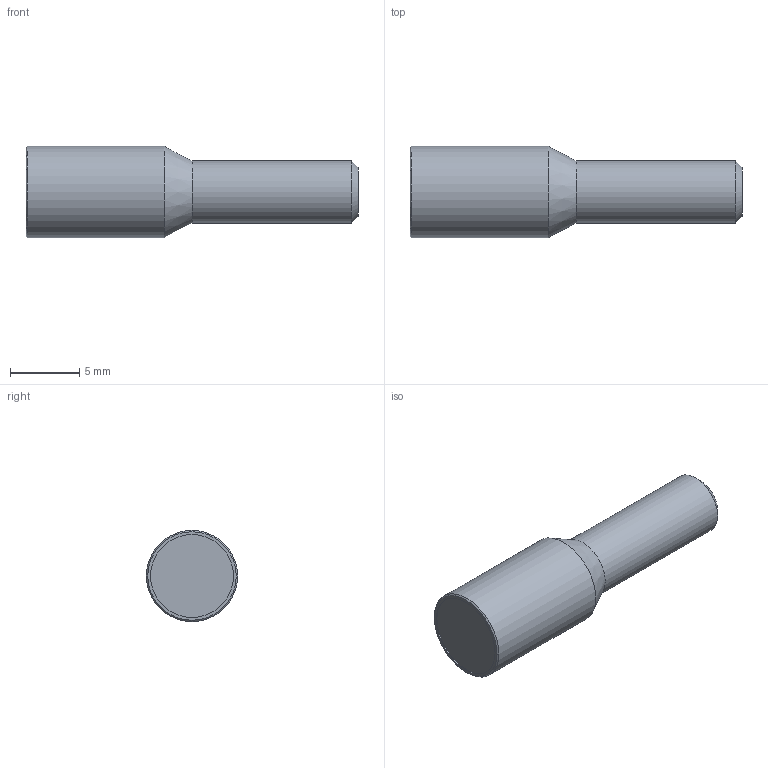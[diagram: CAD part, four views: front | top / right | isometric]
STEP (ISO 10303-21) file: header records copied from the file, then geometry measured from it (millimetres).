
FILE_DESCRIPTION(/* description */ ('LWL Typ-A 2.0'),/* implementation_level */ '2;1');
FILE_NAME(/* name */ 'T:\E-Mail-Zeichnungen\STEP\HOMEPAGE\LWL_Typ-A_2.0.stp',/* time_stamp */ '2015-04-20T08:45:38+02:00',/* author */ ('simone.schrank'),/* organization */ (''),/* preprocessor_version */ 'ST-DEVELOPER v15.6',/* originating_system */ 'Autodesk Inventor 2015',/* authorisation */ '');
FILE_SCHEMA (('AUTOMOTIVE_DESIGN { 1 0 10303 214 3 1 1 }'));
Length unit declared in the file: millimetre
Products named in the file (1): LWL_Typ-A_2.0
Bounding box: 24 x 6.6 x 6.6 mm (x, y, z)
Volume: 578.7 mm3; surface area: 461.8 mm2
Topology: 1 solids, 1 shells, 11 faces, 17 edges, 10 vertices
Faces by surface type: plane 4, cylinder 4, cone 3
Full cylindrical faces by diameter (mm): 2.5 x1, 4.5 x1, 6 x1, 6.6 x1
Entity records: 247 total; most frequent: DIRECTION 44, CARTESIAN_POINT 32, AXIS2_PLACEMENT_3D 22, EDGE_LOOP 20, ORIENTED_EDGE 20, FACE_OUTER_BOUND 11, ADVANCED_FACE 11, CIRCLE 10
